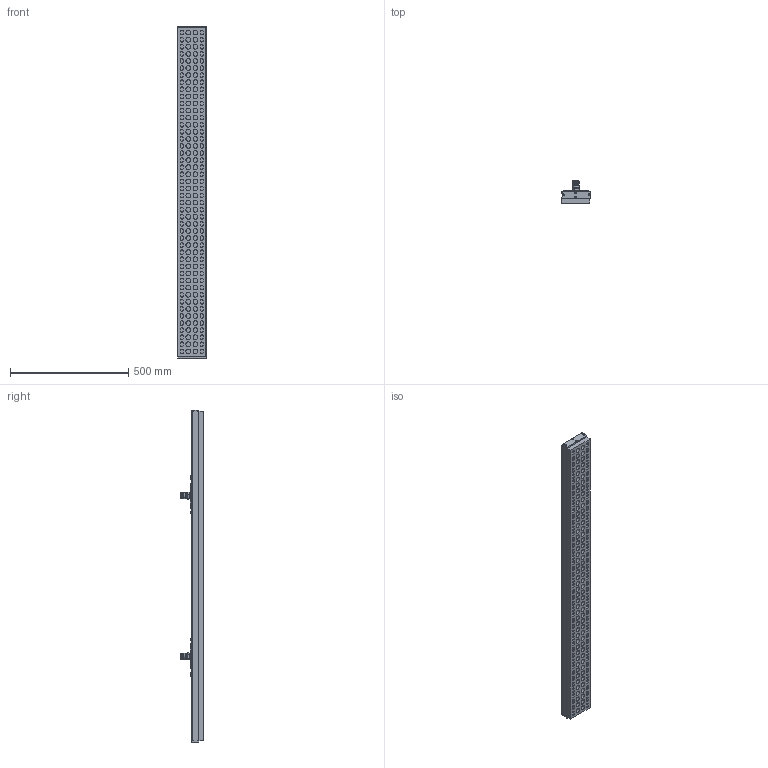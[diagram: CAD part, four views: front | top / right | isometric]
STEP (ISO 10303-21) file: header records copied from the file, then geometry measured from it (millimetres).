
FILE_DESCRIPTION (( 'STEP AP214' ), '1' );
FILE_NAME ('311 400 017.STEP', '2018-01-10T11:42:10', ( '' ), ( '' ), 'SwSTEP 2.0', 'SolidWorks 2017', '' );
FILE_SCHEMA (( 'AUTOMOTIVE_DESIGN' ));
Length unit declared in the file: millimetre
Products named in the file (1): 311 400 017
Bounding box: 121.5 x 98.5 x 1406 mm (x, y, z)
Volume: 7570610.4 mm3; surface area: 754053.9 mm2
Topology: 1 solids, 1 shells, 1636 faces, 3842 edges, 2460 vertices
Faces by surface type: cylinder 768, plane 608, torus 172, cone 68, bspline 12, sphere 8
Entity records: 66212 total; most frequent: CARTESIAN_POINT 9087, DIRECTION 8936, ORIENTED_EDGE 7644, EDGE_CURVE 3822, AXIS2_PLACEMENT_3D 3577, VERTEX_POINT 2448, CIRCLE 1952, EDGE_LOOP 1900
